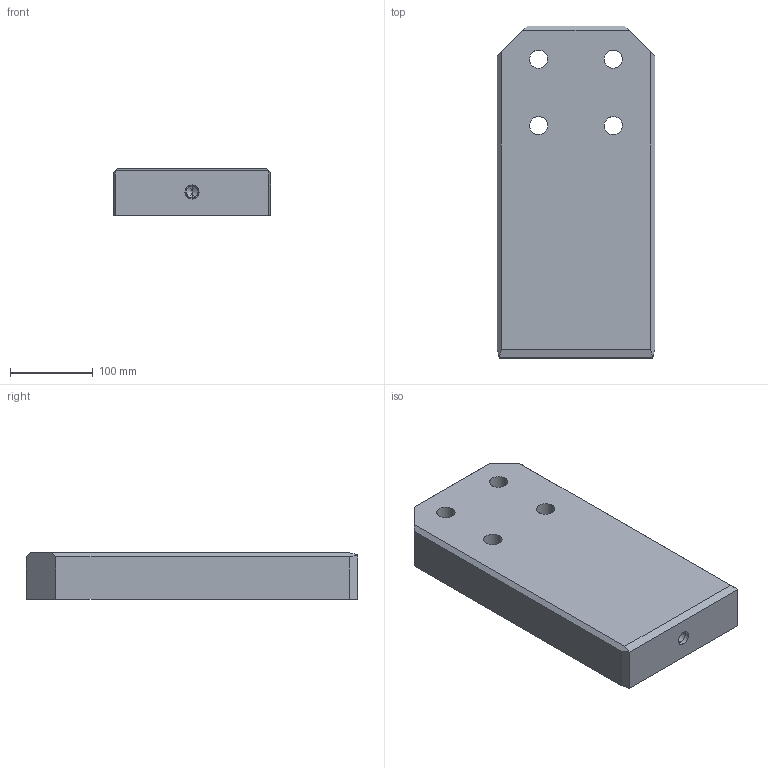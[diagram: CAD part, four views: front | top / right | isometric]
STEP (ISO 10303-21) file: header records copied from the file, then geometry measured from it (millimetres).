
FILE_DESCRIPTION(('CATIA V5 STEP Exchange'),'2;1');
FILE_NAME('C:\Users\borellobunino\Desktop\3D X SITO CF\A927\GSB_OILLESS_G2290519040056\STEP-2.03\A927-190X400X56.stp','2019-07-15T19:58:36+00:00',('none'),('none'),'CATIA Version 5 Release 20 GA (IN-10)','CATIA V5 STEP AP203','none');
FILE_SCHEMA(('CONFIG_CONTROL_DESIGN'));
Length unit declared in the file: millimetre
Products named in the file (1): A927-190X400X56
Bounding box: 190 x 400 x 56 mm (x, y, z)
Volume: 4025687.8 mm3; surface area: 227575.9 mm2
Topology: 1 solids, 1 shells, 52 faces, 134 edges, 89 vertices
Faces by surface type: cylinder 22, plane 20, cone 10
Entity records: 2048 total; most frequent: CARTESIAN_POINT 784, ORIENTED_EDGE 264, DIRECTION 206, EDGE_CURVE 132, VERTEX_POINT 89, AXIS2_PLACEMENT_3D 87, VECTOR 68, LINE 68
